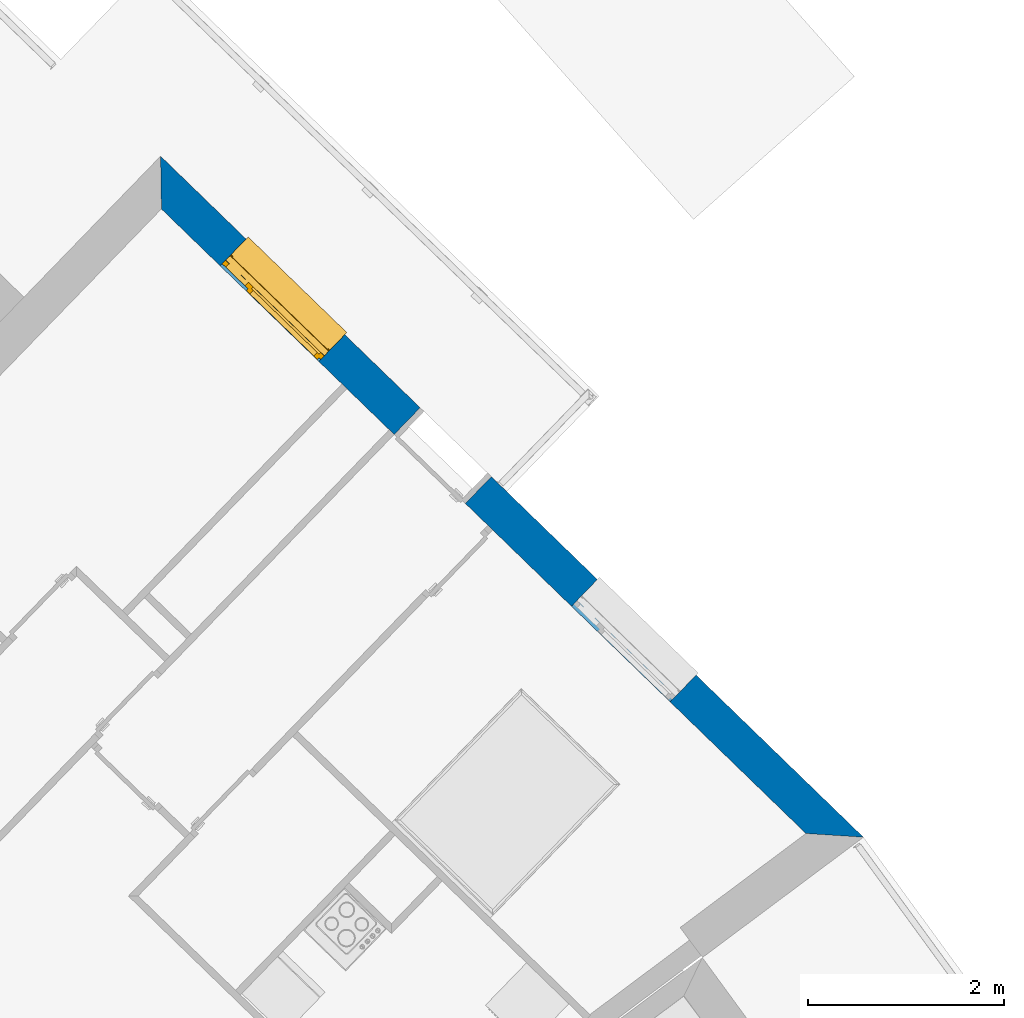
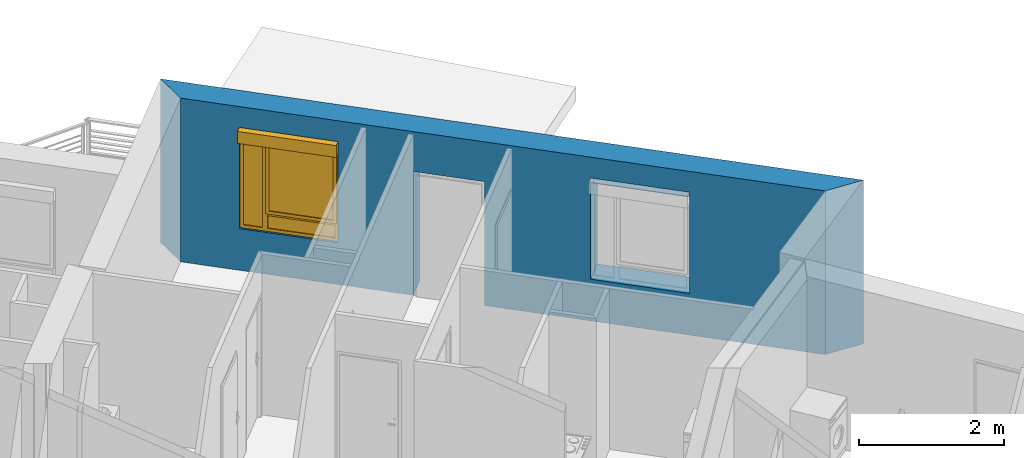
# One storey, part 20 of 121: 1 wall, 1 window, 3 openings.
"""IFC2X3 building model written with IfcOpenShell, lengths in metres."""

import ifcopenshell
import ifcopenshell.guid

model = None  # the IFC model being written
_history = None  # IfcOwnerHistory: only IFC2X3 demands one
_inside = {}  # id of a spatial element -> (the spatial element, [elements in it])
_under = {}  # id of a project, library or spatial element -> (it, [spatial elements below it])
_declared = {}  # id of a project -> (the project, [libraries it declares])
_typed = {}  # id of a type object -> (the type object, [elements of that type])
_made_of = {}  # id of a material, layer set ... -> (it, [elements and type objects made of it])


def new_model(schema):
    """Start an empty IFC model of exactly this schema.

    Asked for "IFC4X3", IfcOpenShell would pick the latest addendum, in which some entities
    have other attributes; the version numbers below select the first issue.
    IFC2X3 requires an IfcOwnerHistory on every rooted entity: one is made here for all.
    """
    global model, _history
    if schema == "IFC4X3":
        model = ifcopenshell.file(schema_version=(4, 3, 0, 0))
    else:
        model = ifcopenshell.file(schema=schema)
    _inside.clear()
    _under.clear()
    _declared.clear()
    _typed.clear()
    _made_of.clear()
    _history = None
    if model.schema == "IFC2X3":
        org = make("IfcOrganization", Name="unknown")
        user = make(
            "IfcPersonAndOrganization",
            ThePerson=make("IfcPerson", FamilyName="unknown"),
            TheOrganization=org,
        )
        app = make(
            "IfcApplication",
            ApplicationDeveloper=org,
            Version="unknown",
            ApplicationFullName="unknown",
            ApplicationIdentifier="unknown",
        )
        _history = make(
            "IfcOwnerHistory",
            OwningUser=user,
            OwningApplication=app,
            ChangeAction="ADDED",
            CreationDate=0,
        )
    return model


def make(cls, **values):
    """One entity of the class cls with the attributes given. An attribute that is None is left unset."""
    return model.create_entity(
        cls, **{name: value for name, value in values.items() if value is not None}
    )


def entity(cls, *values):
    """Any entity or typed value of the class cls, its attributes in the order of the schema. None: left unset."""
    e = model.create_entity(cls)
    for i, value in enumerate(values):
        if value is not None:
            e[i] = value
    return e


def rooted(cls, **values):
    """An entity with a GlobalId (a new one), such as an element, a storey or a relation."""
    return make(cls, GlobalId=ifcopenshell.guid.new(), OwnerHistory=_history, **values)


def si_unit(unit_type, name, prefix=None):
    """IfcSIUnit, for example si_unit("LENGTHUNIT", "METRE", prefix="MILLI")."""
    return make("IfcSIUnit", UnitType=unit_type, Prefix=prefix, Name=name)


def converted_unit(unit_type, name, factor, base, dimensions=None, offset=None):
    """IfcConversionBasedUnit, such as the inch: factor (a typed value) times the base unit."""
    return make(
        "IfcConversionBasedUnit"
        if offset is None
        else "IfcConversionBasedUnitWithOffset",
        ConversionOffset=offset,
        Dimensions=None
        if dimensions is None
        else entity("IfcDimensionalExponents", *dimensions),
        UnitType=unit_type,
        Name=name,
        ConversionFactor=make(
            "IfcMeasureWithUnit", ValueComponent=factor, UnitComponent=base
        ),
    )


def derived_unit(unit_type, elements):
    """IfcDerivedUnit: a product of units, each with its exponent."""
    return make(
        "IfcDerivedUnit",
        Elements=[
            make("IfcDerivedUnitElement", Unit=unit, Exponent=power)
            for unit, power in elements
        ],
        UnitType=unit_type,
    )


def money_unit(currency):
    """IfcMonetaryUnit."""
    return make("IfcMonetaryUnit", Currency=currency)


def assignment(units):
    """IfcUnitAssignment: the units of a project."""
    return None if units is None else make("IfcUnitAssignment", Units=units)


def point(xyz):
    """IfcCartesianPoint."""
    return None if xyz is None else make("IfcCartesianPoint", Coordinates=xyz)


def direction(xyz):
    """IfcDirection."""
    return None if xyz is None else make("IfcDirection", DirectionRatios=xyz)


def frame(location, z_axis=None, x_axis=None):
    """IfcAxis2Placement3D, a coordinate frame: its origin and axes. An axis left out is left unset."""
    return make(
        "IfcAxis2Placement3D",
        Location=point(location),
        Axis=direction(z_axis),
        RefDirection=direction(x_axis),
    )


def frame_2d(location, x_axis=None):
    """IfcAxis2Placement2D, a coordinate frame in the plane: its origin and x axis."""
    return make(
        "IfcAxis2Placement2D", Location=point(location), RefDirection=direction(x_axis)
    )


def origin_with_axes():
    """The frame at (0, 0, 0) with the z axis (0, 0, 1) and the x axis (1, 0, 0) written out."""
    return frame((0.0, 0.0, 0.0), z_axis=(0.0, 0.0, 1.0), x_axis=(1.0, 0.0, 0.0))


def origin_2d_with_axis():
    """The frame at (0, 0) in the plane with the x axis (1, 0) written out."""
    return frame_2d((0.0, 0.0), x_axis=(1.0, 0.0))


def place(relative_to, where):
    """IfcLocalPlacement: puts the frame where relative to a parent placement (None: the world)."""
    return make(
        "IfcLocalPlacement", PlacementRelTo=relative_to, RelativePlacement=where
    )


def context(
    kind, dimensions, precision=None, world=None, true_north=None, identifier=None
):
    """IfcGeometricRepresentationContext, for example the 3D "Model" context."""
    return make(
        "IfcGeometricRepresentationContext",
        ContextIdentifier=identifier,
        ContextType=kind,
        CoordinateSpaceDimension=dimensions,
        Precision=precision,
        WorldCoordinateSystem=world,
        TrueNorth=true_north,
    )


def subcontext(parent, identifier, kind, view, scale=None):
    """IfcGeometricRepresentationSubContext, for example "Body" below "Model"."""
    return make(
        "IfcGeometricRepresentationSubContext",
        ContextIdentifier=identifier,
        ContextType=kind,
        ParentContext=parent,
        TargetScale=scale,
        TargetView=view,
    )


def project(units=None, contexts=None):
    """IfcProject with its units and contexts."""
    return rooted(
        "IfcProject",
        Name="project",
        RepresentationContexts=contexts,
        UnitsInContext=assignment(units),
    )


def spatial(cls, under=None, at=None, **own):
    """A site, building, storey or space (cls), placed at a placement, below another one or the project."""
    s = rooted(cls, ObjectPlacement=at, **own)
    if under is not None:
        _under.setdefault(under.id(), (under, []))[1].append(s)
    return s


def polyline(points):
    """IfcPolyline through the points."""
    return make("IfcPolyline", Points=[point(p) for p in points])


def profile(cls, at=None, kind="AREA", **sizes):
    """A parametric profile (cls). Its sizes go by their IFC names, for example OverallWidth=200.0."""
    return make(cls, ProfileType=kind, Position=at, **sizes)


def rectangle(**sizes):
    """IfcRectangleProfileDef."""
    return profile("IfcRectangleProfileDef", **sizes)


def outline(outer, holes=None, kind="AREA"):
    """IfcArbitraryClosedProfileDef: a profile drawn as a closed curve; with holes, ...WithVoids."""
    if holes is None:
        return make("IfcArbitraryClosedProfileDef", ProfileType=kind, OuterCurve=outer)
    return make(
        "IfcArbitraryProfileDefWithVoids",
        ProfileType=kind,
        OuterCurve=outer,
        InnerCurves=holes,
    )


def extrude(swept, where, along, depth):
    """IfcExtrudedAreaSolid: the profile swept, set in the frame where, extruded along a direction by depth."""
    return make(
        "IfcExtrudedAreaSolid",
        SweptArea=swept,
        Position=where,
        ExtrudedDirection=direction(along),
        Depth=depth,
    )


def faces_of(points, faces, orient=None, outer=None):
    """IfcFace entities. A face is a list of loops; a loop is a list of indices into points, from 0.

    orient and outer hold one flag for each loop. By default every Orientation is true, the
    first loop of a face is its IfcFaceOuterBound and the others are IfcFaceBound.
    """
    made = []
    for i, loops in enumerate(faces):
        bounds = []
        for j, loop in enumerate(loops):
            is_outer = j == 0 if outer is None else outer[i][j]
            bounds.append(
                make(
                    "IfcFaceOuterBound" if is_outer else "IfcFaceBound",
                    Bound=make("IfcPolyLoop", Polygon=[points[k] for k in loop]),
                    Orientation=True if orient is None else orient[i][j],
                )
            )
        made.append(make("IfcFace", Bounds=bounds))
    return made


def open_shell(faces, orient=None, outer=None):
    """The faces of one IfcOpenShell. surface_model builds it on its shared points."""
    return ("IfcOpenShell", faces, orient, outer)


def faceted_brep(points, faces, orient=None, outer=None, voids=None):
    """IfcFacetedBrep: a solid bounded by flat faces; with voids (closed shells), ...WithVoids."""
    shared = [point(p) for p in points]
    hull = make("IfcClosedShell", CfsFaces=faces_of(shared, faces, orient, outer))
    if voids is None:
        return make("IfcFacetedBrep", Outer=hull)
    return make(
        "IfcFacetedBrepWithVoids",
        Outer=hull,
        Voids=[
            make(cls, CfsFaces=faces_of(shared, fs, o, b)) for cls, fs, o, b in voids
        ],
    )


def surface_model(cls, points, shells):
    """IfcFaceBasedSurfaceModel or IfcShellBasedSurfaceModel (cls): surfaces that need not close."""
    shared = [point(p) for p in points]
    made = [make(c, CfsFaces=faces_of(shared, fs, o, b)) for c, fs, o, b in shells]
    if cls == "IfcFaceBasedSurfaceModel":
        return make(cls, FbsmFaces=made)
    return make(cls, SbsmBoundary=made)


def shape(context_of_items, identifier, shape_type, items):
    """IfcShapeRepresentation: the items that make up one representation, for example the "Body"."""
    return make(
        "IfcShapeRepresentation",
        ContextOfItems=context_of_items,
        RepresentationIdentifier=identifier,
        RepresentationType=shape_type,
        Items=items,
    )


def source(mapping_origin, context_of_items, identifier, shape_type, items):
    """IfcRepresentationMap: a shape defined once, which mapped items show again and again."""
    return make(
        "IfcRepresentationMap",
        MappingOrigin=mapping_origin,
        MappedRepresentation=shape(context_of_items, identifier, shape_type, items),
    )


def transform(
    local_origin,
    x_axis=None,
    y_axis=None,
    z_axis=None,
    scale=None,
    scale2=None,
    scale3=None,
    uniform=True,
):
    """IfcCartesianTransformationOperator3D, or its non-uniform kind. x_axis, y_axis, z_axis: its Axis1, 2, 3."""
    if uniform:
        return make(
            "IfcCartesianTransformationOperator3D",
            Axis1=direction(x_axis),
            Axis2=direction(y_axis),
            LocalOrigin=point(local_origin),
            Scale=scale,
            Axis3=direction(z_axis),
        )
    return make(
        "IfcCartesianTransformationOperator3DnonUniform",
        Axis1=direction(x_axis),
        Axis2=direction(y_axis),
        LocalOrigin=point(local_origin),
        Scale=scale,
        Axis3=direction(z_axis),
        Scale2=scale2,
        Scale3=scale3,
    )


def mapped(mapping_source, mapping_target):
    """IfcMappedItem: shows the shape of a source again, moved by a transform."""
    return make(
        "IfcMappedItem", MappingSource=mapping_source, MappingTarget=mapping_target
    )


def material(Name=None, Category=None):
    """IfcMaterial."""
    return make("IfcMaterial", Name=Name, Category=Category)


def layer(
    of_material, thickness, ventilated=None, Name=None, Category=None, Priority=None
):
    """IfcMaterialLayer: one layer of a wall or slab, of a material (None: an air gap)."""
    return make(
        "IfcMaterialLayer",
        Material=of_material,
        LayerThickness=thickness,
        IsVentilated=ventilated,
        Name=Name,
        Category=Category,
        Priority=Priority,
    )


def layer_set(layers, Name=None):
    """IfcMaterialLayerSet."""
    return make("IfcMaterialLayerSet", MaterialLayers=layers, LayerSetName=Name)


def layer_usage(for_layer_set, set_direction, sense, offset, extent=None):
    """IfcMaterialLayerSetUsage: how a layer set lies in its element."""
    return make(
        "IfcMaterialLayerSetUsage",
        ForLayerSet=for_layer_set,
        LayerSetDirection=set_direction,
        DirectionSense=sense,
        OffsetFromReferenceLine=offset,
        ReferenceExtent=extent,
    )


def made_of(thing, what):
    """Note that an element or type object is made of a material, layer set ...; save() writes the relation."""
    if what is not None:
        _made_of.setdefault(what.id(), (what, []))[1].append(thing)
    return thing


def type_object(cls, material=None, **own):
    """A type object (cls), such as IfcWallType, which elements share."""
    return made_of(rooted(cls, **own), material)


def element(
    cls,
    number,
    at=None,
    inside=None,
    cuts=None,
    type_object=None,
    material=None,
    context=None,
    identifier="Body",
    shape_type=None,
    held_by="IfcProductDefinitionShape",
    body=None,
    shapes=None,
    **own,
):
    """One element of the class cls, such as IfcWall. Its Tag is "e" and its number.

    at: its placement. inside: the storey or other place that contains it. cuts: it is an
    opening in that element (IfcRelVoidsElement). A single representation is given by context,
    identifier, shape_type and body (its items); several are given by shapes. held_by: the class
    of the entity that holds the representations. save() writes the other relations.
    """
    e = rooted(cls, Tag="e%d" % number, ObjectPlacement=at, **own)
    if body is not None:
        shapes = [shape(context, identifier, shape_type, body)]
    if shapes is not None:
        e.Representation = make(held_by, Representations=shapes)
    if inside is not None:
        _inside.setdefault(inside.id(), (inside, []))[1].append(e)
    if cuts is not None:
        rooted(
            "IfcRelVoidsElement", RelatingBuildingElement=cuts, RelatedOpeningElement=e
        )
    if type_object is not None:
        _typed.setdefault(type_object.id(), (type_object, []))[1].append(e)
    return made_of(e, material)


def fill(opening, filler):
    """IfcRelFillsElement: the door or window that sits in an opening."""
    return rooted(
        "IfcRelFillsElement",
        RelatingOpeningElement=opening,
        RelatedBuildingElement=filler,
    )


def aggregate(whole, parts):
    """IfcRelAggregates: a whole, such as a stair, and the parts it consists of."""
    return rooted("IfcRelAggregates", RelatingObject=whole, RelatedObjects=parts)


def save(model, path):
    """Write the relations noted so far, then the file.

    IfcRelAggregates (storeys below a building ...), IfcRelContainedInSpatialStructure (elements
    in a storey), IfcRelDefinesByType, IfcRelAssociatesMaterial and IfcRelDeclares: one each for
    every whole, place, type object, material and project.
    """
    for whole, parts in _under.values():
        aggregate(whole, parts)
    for where, things in _inside.values():
        rooted(
            "IfcRelContainedInSpatialStructure",
            RelatedElements=things,
            RelatingStructure=where,
        )
    for kind, things in _typed.values():
        rooted("IfcRelDefinesByType", RelatedObjects=things, RelatingType=kind)
    for what, things in _made_of.values():
        rooted("IfcRelAssociatesMaterial", RelatedObjects=things, RelatingMaterial=what)
    for by, libraries in _declared.values():
        rooted("IfcRelDeclares", RelatingContext=by, RelatedDefinitions=libraries)
    model.write(path)


model = new_model("IFC2X3")

# Units and contexts
model_context = context("Model", 3, precision=1e-05, world=origin_with_axes(), true_north=direction((0.0, 1.0)))
body_context = subcontext(model_context, "Body", "Model", "MODEL_VIEW")
ifc_project = project(units=[si_unit("LENGTHUNIT", "METRE"), si_unit("AREAUNIT", "SQUARE_METRE"), si_unit("VOLUMEUNIT", "CUBIC_METRE"), converted_unit("PLANEANGLEUNIT", "DEGREE", entity("IfcPlaneAngleMeasure", 0.0174532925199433), si_unit("PLANEANGLEUNIT", "RADIAN"), dimensions=[0, 0, 0, 0, 0, 0, 0]), money_unit("CHF"), converted_unit("TIMEUNIT", "Year", entity("IfcTimeMeasure", 31557600.0), si_unit("TIMEUNIT", "SECOND"), dimensions=[0, 0, 1, 0, 0, 0, 0]), si_unit("MASSUNIT", "GRAM", prefix="KILO"), si_unit("THERMODYNAMICTEMPERATUREUNIT", "DEGREE_CELSIUS"), si_unit("LUMINOUSINTENSITYUNIT", "LUMEN"), si_unit("ENERGYUNIT", "JOULE", prefix="MEGA"), derived_unit("THERMALCONDUCTANCEUNIT", [(si_unit("POWERUNIT", "WATT"), 1), (si_unit("LENGTHUNIT", "METRE"), -1), (si_unit("THERMODYNAMICTEMPERATUREUNIT", "KELVIN"), -1)]), derived_unit("SPECIFICHEATCAPACITYUNIT", [(si_unit("ENERGYUNIT", "JOULE"), 1), (si_unit("MASSUNIT", "GRAM", prefix="KILO"), -1), (si_unit("THERMODYNAMICTEMPERATUREUNIT", "KELVIN"), -1)]), derived_unit("MASSDENSITYUNIT", [(si_unit("MASSUNIT", "GRAM", prefix="KILO"), 1), (si_unit("VOLUMEUNIT", "CUBIC_METRE"), -1)])], contexts=[model_context])

# Site, building, storey
site_placement = place(None, origin_with_axes())
site = spatial("IfcSite", under=ifc_project, at=site_placement, Name="Site", CompositionType="ELEMENT")
building_placement = place(site_placement, origin_with_axes())
building = spatial("IfcBuilding", under=site, at=building_placement, Name="Bâtiment", CompositionType="ELEMENT")
storey_placement = place(building_placement, frame((0.0, 0.0, 2.75), z_axis=(0.0, 0.0, 1.0), x_axis=(1.0, 0.0, 0.0)))
storey = spatial("IfcBuildingStorey", under=building, at=storey_placement, Name="Etage 1", CompositionType="ELEMENT", Elevation=2.75)

# Wall, openings, window
ifc_material_1 = material(Name="Parpaing 312445824")
ifc_layer_1 = layer(ifc_material_1, 0.22, ventilated="UNKNOWN")
ifc_material_2 = material(Name="Isolant styromousse 301821074")
ifc_layer_2 = layer(ifc_material_2, 0.16, ventilated="UNKNOWN")
ifc_layer_set = layer_set([ifc_layer_1, ifc_layer_2], Name="isol int 22+16 0836643197")
ifc_layer_usage = layer_usage(ifc_layer_set, "AXIS2", "NEGATIVE", 0.0)
wall_type = type_object("IfcWallType", Name="isol int 22+16 0836643197 380", PredefinedType="NOTDEFINED")
wall_placement = place(storey_placement, frame((9531.989867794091, -1061.560379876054, 57.7), z_axis=(0.0, 0.0, 1.0), x_axis=(0.7181763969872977, -0.6958610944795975, 0.0)))
wall = element("IfcWallStandardCase", 1, at=wall_placement, inside=storey, type_object=wall_type, material=ifc_layer_usage, Name="Mur-116", context=body_context, shape_type="SweptSolid", body=[
    extrude(outline(polyline([(0.3800000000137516, -0.3799999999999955), (9.524551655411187, -0.3800000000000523), (9.970619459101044, 0.0), (0.0, 0.0), (0.3800000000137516, -0.3799999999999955)])), origin_with_axes(), (0.0, 0.0, 1.0), 2.75),
])
opening_1_placement = place(wall_placement, frame((1.912836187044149, 0.0, 0.7000000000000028), z_axis=(0.0, 0.0, 1.0), x_axis=(1.0, 0.0, 0.0)))
opening_1 = element("IfcOpeningElement", 2, at=opening_1_placement, cuts=wall, Name="Fen-045", context=body_context, shape_type="Brep", body=[
    faceted_brep([(-0.7000000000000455, -0.2200000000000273, 1.5), (0.6999999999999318, -0.2200000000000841, 1.5), (0.6999999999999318, 4.983827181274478, 1.5), (-0.7000000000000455, 4.983827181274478, 1.5), (-0.7000000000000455, -0.2200000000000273, 1.700000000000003), (0.6999999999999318, -0.2200000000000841, 1.700000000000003), (0.6999999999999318, -0.3000000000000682, 1.5), (0.6999999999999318, -0.3000000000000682, 0.0), (0.6999999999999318, 4.983827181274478, 0.0), (-0.7000000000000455, 4.983827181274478, 0.0), (-0.7000000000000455, -0.3000000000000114, 1.5), (-0.7000000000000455, -0.3000000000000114, 0.0), (-0.7000000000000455, -0.4799999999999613, 1.5), (-0.7000000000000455, -0.4799999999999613, 1.700000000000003), (0.6999999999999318, -0.4800000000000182, 1.700000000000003), (0.6999999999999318, -0.4800000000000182, 1.5), (0.6999999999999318, -5.36382718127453, 1.5), (0.6999999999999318, -5.36382718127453, 0.0), (-0.7000000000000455, -5.363827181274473, 0.0), (-0.7000000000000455, -5.363827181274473, 1.5)], [[[0, 1, 2, 3]], [[1, 0, 4, 5]], [[1, 6, 7, 8, 2]], [[2, 8, 9, 3]], [[10, 0, 3, 9, 11]], [[0, 10, 12, 13, 4]], [[4, 13, 14, 5]], [[6, 1, 5, 14, 15]], [[6, 15, 16, 17, 7]], [[7, 11, 9, 8]], [[12, 10, 11, 18, 19]], [[12, 15, 14, 13]], [[15, 12, 19, 16]], [[19, 18, 17, 16]], [[11, 7, 17, 18]]]),
])
opening_2_placement = place(wall_placement, frame((4.187148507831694, 0.0, 0.0), z_axis=(0.0, 0.0, 1.0), x_axis=(1.0, 0.0, 0.0)))
element("IfcOpeningElement", 3, at=opening_2_placement, cuts=wall, Name="Por-297", context=body_context, shape_type="SweptSolid", body=[
    extrude(rectangle(XDim=1.01000001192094, YDim=2.079999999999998, at=origin_2d_with_axis()), frame((-5.960487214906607e-09, 0.3799999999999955, 1.039999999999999), z_axis=(0.0, -1.0, 0.0), x_axis=(-1.0, 0.0, 0.0)), (0.0, 0.0, 1.0), 0.76),
])
opening_3_placement = place(wall_placement, frame((6.896864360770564, 0.0, 0.7000000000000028), z_axis=(0.0, 0.0, 1.0), x_axis=(1.0, 0.0, 0.0)))
element("IfcOpeningElement", 4, at=opening_3_placement, cuts=wall, Name="Fen-045", context=body_context, shape_type="Brep", body=[
    faceted_brep([(-0.7000000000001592, -0.2200000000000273, 1.5), (0.6999999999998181, -0.2200000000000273, 1.5), (0.6999999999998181, 4.983827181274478, 1.5), (-0.7000000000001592, 4.983827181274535, 1.5), (-0.7000000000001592, -0.2200000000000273, 1.700000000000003), (0.6999999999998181, -0.2200000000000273, 1.700000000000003), (0.6999999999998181, -0.3000000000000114, 1.5), (0.6999999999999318, -0.3000000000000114, 0.0), (0.6999999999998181, 4.983827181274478, 0.0), (-0.7000000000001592, 4.983827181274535, 0.0), (-0.7000000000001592, -0.2999999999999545, 1.5), (-0.7000000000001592, -0.3000000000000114, 0.0), (-0.7000000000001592, -0.4799999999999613, 1.5), (-0.7000000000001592, -0.4799999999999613, 1.700000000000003), (0.6999999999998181, -0.4799999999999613, 1.700000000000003), (0.6999999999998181, -0.4799999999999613, 1.5), (0.6999999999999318, -5.36382718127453, 1.5), (0.6999999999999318, -5.36382718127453, 0.0), (-0.7000000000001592, -5.363827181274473, 0.0), (-0.7000000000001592, -5.363827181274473, 1.5)], [[[0, 1, 2, 3]], [[1, 0, 4, 5]], [[1, 6, 7, 8, 2]], [[2, 8, 9, 3]], [[10, 0, 3, 9, 11]], [[0, 10, 12, 13, 4]], [[4, 13, 14, 5]], [[6, 1, 5, 14, 15]], [[6, 15, 16, 17, 7]], [[7, 11, 9, 8]], [[12, 10, 11, 18, 19]], [[12, 15, 14, 13]], [[15, 12, 19, 16]], [[19, 18, 17, 16]], [[11, 7, 17, 18]]]),
])
window_style = type_object("IfcWindowStyle", Name="Fenêtre variable 27", ConstructionType="NOTDEFINED", OperationType="TRIPLE_PANEL_RIGHT", ParameterTakesPrecedence=False, Sizeable=False)
shared_shape = source(origin_with_axes(), body_context, "Body", "SurfaceModel", [
    surface_model("IfcShellBasedSurfaceModel", [(-0.7, -0.05100000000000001, 0.05), (-0.7, -0.05100000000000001, 0.04), (0.7, -0.05100000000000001, 0.04000000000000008), (0.7, -0.05100000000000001, 0.05000000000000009), (-0.7, -0.3799999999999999, 0.02899999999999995), (0.7, -0.3799999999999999, 0.02900000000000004), (-0.7, -0.3799999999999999, 0.008999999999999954), (0.7, -0.3799999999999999, 0.00900000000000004), (-0.7, -0.3699999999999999, 0.01899999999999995), (0.7, -0.3699999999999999, 0.01900000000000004)], [open_shell([[[0, 1, 2, 3]], [[1, 4, 5, 2]], [[4, 6, 7, 5]], [[6, 8, 9, 7]]])]),
    faceted_brep([(-0.7, -0.13, 1.7), (-0.697, -0.13, 1.7), (-0.697, 0.13, 1.7), (-0.7, 0.13, 1.7), (-0.7, -0.13, 1.5), (-0.697, -0.13, 1.5), (-0.697, 0.13, 1.5), (-0.7, 0.13, 1.5)], [[[0, 1, 2, 3]], [[4, 5, 1, 0]], [[1, 5, 6, 2]], [[3, 2, 6, 7]], [[0, 3, 7, 4]], [[7, 6, 5, 4]]]),
    faceted_brep([(0.6970000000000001, -0.1299999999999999, 1.7), (0.7000000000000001, -0.1299999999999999, 1.7), (0.7000000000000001, 0.1300000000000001, 1.7), (0.6970000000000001, 0.1300000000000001, 1.7), (0.6970000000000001, -0.1299999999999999, 1.5), (0.7000000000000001, -0.1299999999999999, 1.5), (0.7000000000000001, 0.1300000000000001, 1.5), (0.6970000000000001, 0.1300000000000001, 1.5)], [[[0, 1, 2, 3]], [[4, 5, 1, 0]], [[1, 5, 6, 2]], [[3, 2, 6, 7]], [[0, 3, 7, 4]], [[7, 6, 5, 4]]]),
    faceted_brep([(-0.697, -0.13, 1.5), (0.697, -0.1299999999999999, 1.5), (0.697, -0.1299999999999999, 1.7), (-0.697, -0.13, 1.7), (-0.697, -0.127, 1.5), (0.697, -0.1269999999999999, 1.5), (0.697, -0.1269999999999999, 1.697), (0.697, 0.1270000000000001, 1.697), (0.697, 0.1270000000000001, 1.503), (0.697, -0.1079999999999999, 1.503), (0.697, -0.1079999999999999, 1.5), (0.697, 0.1300000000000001, 1.5), (0.697, 0.1300000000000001, 1.7), (-0.697, 0.13, 1.7), (-0.697, 0.13, 1.5), (-0.697, -0.108, 1.5), (-0.697, -0.108, 1.503), (-0.697, 0.127, 1.503), (-0.697, 0.127, 1.697), (-0.697, -0.127, 1.697)], [[[0, 1, 2, 3]], [[4, 5, 1, 0]], [[1, 5, 6, 7, 8, 9, 10, 11, 12, 2]], [[3, 2, 12, 13]], [[0, 3, 13, 14, 15, 16, 17, 18, 19, 4]], [[19, 6, 5, 4]], [[18, 7, 6, 19]], [[17, 8, 7, 18]], [[16, 9, 8, 17]], [[15, 10, 9, 16]], [[14, 11, 10, 15]], [[13, 12, 11, 14]]]),
    faceted_brep([(-0.694, -0.08075423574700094, 1.585760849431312), (-0.694, -0.08200000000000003, 1.6), (-0.694, -0.0807542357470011, 1.614239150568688), (-0.694, -0.07705479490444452, 1.628045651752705), (-0.694, -0.07101408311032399, 1.641), (-0.694, -0.06281564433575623, 1.652708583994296), (-0.694, -0.05270858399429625, 1.662815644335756), (-0.694, -0.04100000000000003, 1.671014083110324), (-0.694, -0.02804565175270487, 1.677054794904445), (-0.694, -0.01423915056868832, 1.680754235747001), (-0.694, 0.0, 1.682), (-0.694, 0.01423915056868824, 1.680754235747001), (-0.694, 0.02804565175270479, 1.677054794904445), (-0.694, 0.04099999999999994, 1.671014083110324), (-0.694, 0.05270858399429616, 1.662815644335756), (-0.694, 0.06281564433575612, 1.652708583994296), (-0.694, 0.07101408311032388, 1.641), (-0.694, 0.0770547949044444, 1.628045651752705), (-0.694, 0.08075423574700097, 1.614239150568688), (-0.694, 0.0819999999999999, 1.6), (-0.694, 0.08075423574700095, 1.585760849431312), (-0.694, 0.07705479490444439, 1.571954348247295), (-0.694, 0.07101408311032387, 1.559), (-0.694, 0.06281564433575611, 1.547291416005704), (-0.694, 0.05270858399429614, 1.537184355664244), (-0.694, 0.04099999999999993, 1.528985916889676), (-0.694, 0.02804565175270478, 1.522945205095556), (-0.694, 0.01423915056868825, 1.519245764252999), (-0.694, 0.0, 1.518), (-0.694, -0.01423915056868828, 1.519245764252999), (-0.694, -0.02804565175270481, 1.522945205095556), (-0.694, -0.04099999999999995, 1.528985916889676), (-0.694, -0.05270858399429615, 1.537184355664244), (-0.694, -0.06281564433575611, 1.547291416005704), (-0.694, -0.07101408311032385, 1.559), (-0.694, -0.07705479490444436, 1.571954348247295), (0.694, -0.08075423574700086, 1.585760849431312), (0.694, -0.08199999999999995, 1.6), (0.694, -0.08075423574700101, 1.614239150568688), (0.694, -0.07705479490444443, 1.628045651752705), (0.694, -0.07101408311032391, 1.641), (0.694, -0.06281564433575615, 1.652708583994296), (0.694, -0.05270858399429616, 1.662815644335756), (0.694, -0.04099999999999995, 1.671014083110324), (0.694, -0.02804565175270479, 1.677054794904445), (0.694, -0.01423915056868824, 1.680754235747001), (0.694, 0.0, 1.682), (0.694, 0.01423915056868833, 1.680754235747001), (0.694, 0.02804565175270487, 1.677054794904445), (0.694, 0.04100000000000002, 1.671014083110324), (0.694, 0.05270858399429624, 1.662815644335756), (0.694, 0.0628156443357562, 1.652708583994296), (0.694, 0.07101408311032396, 1.641), (0.694, 0.07705479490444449, 1.628045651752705), (0.694, 0.08075423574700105, 1.614239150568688), (0.694, 0.08199999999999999, 1.6), (0.694, 0.08075423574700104, 1.585760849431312), (0.694, 0.07705479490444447, 1.571954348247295), (0.694, 0.07101408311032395, 1.559), (0.694, 0.06281564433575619, 1.547291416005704), (0.694, 0.05270858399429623, 1.537184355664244), (0.694, 0.04100000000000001, 1.528985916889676), (0.694, 0.02804565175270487, 1.522945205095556), (0.694, 0.01423915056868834, 1.519245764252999), (0.694, 0.0, 1.518), (0.694, -0.0142391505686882, 1.519245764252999), (0.694, -0.02804565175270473, 1.522945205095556), (0.694, -0.04099999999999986, 1.528985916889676), (0.694, -0.05270858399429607, 1.537184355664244), (0.694, -0.06281564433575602, 1.547291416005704), (0.694, -0.07101408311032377, 1.559), (0.694, -0.07705479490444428, 1.571954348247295)], [[[0, 1, 2, 3, 4, 5, 6, 7, 8, 9, 10, 11, 12, 13, 14, 15, 16, 17, 18, 19, 20, 21, 22, 23, 24, 25, 26, 27, 28, 29, 30, 31, 32, 33, 34, 35]], [[0, 36, 37, 1]], [[1, 37, 38, 2]], [[2, 38, 39, 3]], [[3, 39, 40, 4]], [[4, 40, 41, 5]], [[5, 41, 42, 6]], [[6, 42, 43, 7]], [[7, 43, 44, 8]], [[8, 44, 45, 9]], [[9, 45, 46, 10]], [[10, 46, 47, 11]], [[11, 47, 48, 12]], [[12, 48, 49, 13]], [[13, 49, 50, 14]], [[14, 50, 51, 15]], [[15, 51, 52, 16]], [[16, 52, 53, 17]], [[17, 53, 54, 18]], [[18, 54, 55, 19]], [[19, 55, 56, 20]], [[20, 56, 57, 21]], [[21, 57, 58, 22]], [[22, 58, 59, 23]], [[23, 59, 60, 24]], [[24, 60, 61, 25]], [[25, 61, 62, 26]], [[26, 62, 63, 27]], [[27, 63, 64, 28]], [[28, 64, 65, 29]], [[29, 65, 66, 30]], [[30, 66, 67, 31]], [[31, 67, 68, 32]], [[32, 68, 69, 33]], [[33, 69, 70, 34]], [[34, 70, 71, 35]], [[35, 71, 36, 0]], [[36, 71, 70, 69, 68, 67, 66, 65, 64, 63, 62, 61, 60, 59, 58, 57, 56, 55, 54, 53, 52, 51, 50, 49, 48, 47, 46, 45, 44, 43, 42, 41, 40, 39, 38, 37]]]),
    faceted_brep([(0.7, -0.105, 0.03), (0.7, -0.1049999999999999, 1.5), (0.7, -0.1299999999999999, 1.5), (0.7, -0.13, 0.03), (0.6749999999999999, -0.105, 0.03), (0.6749999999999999, -0.1049999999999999, 1.5), (0.6749999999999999, -0.1079999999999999, 1.5), (0.697, -0.1079999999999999, 1.5), (0.697, -0.1269999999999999, 1.5), (0.6749999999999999, -0.1269999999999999, 1.5), (0.6749999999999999, -0.1299999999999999, 1.5), (0.6749999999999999, -0.13, 0.03), (0.6749999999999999, -0.127, 0.03), (0.697, -0.127, 0.03), (0.697, -0.108, 0.03), (0.6749999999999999, -0.108, 0.03)], [[[0, 1, 2, 3]], [[4, 5, 1, 0]], [[1, 5, 6, 7, 8, 9, 10, 2]], [[3, 2, 10, 11]], [[0, 3, 11, 12, 13, 14, 15, 4]], [[15, 6, 5, 4]], [[14, 7, 6, 15]], [[13, 8, 7, 14]], [[12, 9, 8, 13]], [[11, 10, 9, 12]]]),
    faceted_brep([(-0.7, -0.105, 0.03), (-0.7, -0.13, 0.03), (-0.7, -0.1299999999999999, 1.5), (-0.7, -0.1049999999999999, 1.5), (-0.6749999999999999, -0.105, 0.03), (-0.6749999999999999, -0.108, 0.03), (-0.697, -0.108, 0.03), (-0.697, -0.127, 0.03), (-0.6749999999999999, -0.127, 0.03), (-0.6749999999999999, -0.13, 0.03), (-0.6749999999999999, -0.1299999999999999, 1.5), (-0.6749999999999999, -0.1269999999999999, 1.5), (-0.697, -0.1269999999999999, 1.5), (-0.697, -0.1079999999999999, 1.5), (-0.6749999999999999, -0.1079999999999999, 1.5), (-0.6749999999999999, -0.1049999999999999, 1.5)], [[[0, 1, 2, 3]], [[0, 4, 5, 6, 7, 8, 9, 1]], [[1, 9, 10, 2]], [[3, 2, 10, 11, 12, 13, 14, 15]], [[4, 0, 3, 15]], [[5, 4, 15, 14]], [[6, 5, 14, 13]], [[7, 6, 13, 12]], [[8, 7, 12, 11]], [[9, 8, 11, 10]]]),
    surface_model("IfcShellBasedSurfaceModel", [(-0.697, -0.115, 1.6), (0.697, -0.1149999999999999, 1.6), (0.697, -0.1199999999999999, 1.6), (-0.697, -0.12, 1.6), (-0.697, -0.115, 1.6), (-0.697, -0.12, 1.6), (0.697, -0.12, 1.6), (0.697, -0.1149999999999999, 1.6)], [open_shell([[[0, 1, 2, 3]], [[4, 5, 6, 7]]])]),
    faceted_brep([(-0.697, -0.115, 1.6), (0.697, -0.1149999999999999, 1.6), (0.697, -0.1166666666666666, 1.583333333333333), (-0.697, -0.1166666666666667, 1.583333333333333), (-0.697, -0.12, 1.6), (0.697, -0.1199999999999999, 1.6), (0.697, -0.1216666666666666, 1.583333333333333), (0.697, -0.1216666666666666, 1.566666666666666), (0.697, -0.1199999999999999, 1.55), (0.697, -0.1149999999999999, 1.55), (0.697, -0.1166666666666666, 1.566666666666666), (-0.697, -0.1166666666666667, 1.566666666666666), (-0.697, -0.115, 1.55), (-0.697, -0.12, 1.55), (-0.697, -0.1216666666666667, 1.566666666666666), (-0.697, -0.1216666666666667, 1.583333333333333)], [[[0, 1, 2, 3]], [[4, 5, 1, 0]], [[1, 5, 6, 7, 8, 9, 10, 2]], [[3, 2, 10, 11]], [[0, 3, 11, 12, 13, 14, 15, 4]], [[15, 6, 5, 4]], [[14, 7, 6, 15]], [[13, 8, 7, 14]], [[12, 9, 8, 13]], [[11, 10, 9, 12]]]),
    faceted_brep([(-0.697, -0.115, 1.55), (0.697, -0.1149999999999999, 1.55), (0.697, -0.1166666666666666, 1.533333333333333), (-0.697, -0.1166666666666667, 1.533333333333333), (-0.697, -0.12, 1.55), (0.697, -0.1199999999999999, 1.55), (0.697, -0.1216666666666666, 1.533333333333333), (0.697, -0.1216666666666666, 1.516666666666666), (0.697, -0.1199999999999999, 1.5), (0.697, -0.1149999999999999, 1.5), (0.697, -0.1166666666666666, 1.516666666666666), (-0.697, -0.1166666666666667, 1.516666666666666), (-0.697, -0.115, 1.5), (-0.697, -0.12, 1.5), (-0.697, -0.1216666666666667, 1.516666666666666), (-0.697, -0.1216666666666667, 1.533333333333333)], [[[0, 1, 2, 3]], [[4, 5, 1, 0]], [[1, 5, 6, 7, 8, 9, 10, 2]], [[3, 2, 10, 11]], [[0, 3, 11, 12, 13, 14, 15, 4]], [[15, 6, 5, 4]], [[14, 7, 6, 15]], [[13, 8, 7, 14]], [[12, 9, 8, 13]], [[11, 10, 9, 12]]]),
    faceted_brep([(-0.6749999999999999, 0.0, 1.45), (-0.7, 0.0, 1.45), (-0.7, -0.05000000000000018, 1.45), (-0.6499999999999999, -0.05000000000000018, 1.45), (-0.6499999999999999, -0.02500000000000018, 1.45), (-0.6749999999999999, -0.02500000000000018, 1.45), (-0.6749999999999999, 0.0, 0.3099999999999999), (-0.6499999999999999, 0.0, 0.3099999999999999), (-0.6499999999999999, 0.0, 0.265), (-0.6499999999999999, 0.0, 0.05000000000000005), (-0.7, 0.0, 0.05000000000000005), (-0.7, -0.05000000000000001, 0.05000000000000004), (-0.6499999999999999, -0.05000000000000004, 0.335), (-0.6499999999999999, -0.05000000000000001, 0.05000000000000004), (-0.6499999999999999, -0.05000000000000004, 0.265), (-0.6499999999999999, -0.02500000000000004, 0.335), (-0.6499999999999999, -0.02500000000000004, 0.3099999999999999), (-0.6749999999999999, -0.02500000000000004, 0.3099999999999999)], [[[0, 1, 2, 3, 4, 5]], [[6, 7, 8, 9, 10, 1, 0]], [[1, 10, 11, 2]], [[12, 3, 2, 11, 13, 14]], [[4, 3, 12, 15]], [[15, 16, 17, 5, 4]], [[5, 17, 6, 0]], [[6, 17, 16, 7]], [[16, 15, 12, 14, 8, 7]], [[9, 8, 14, 13]], [[10, 9, 13, 11]]]),
    faceted_brep([(0.3068894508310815, -0.02500000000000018, 1.45), (0.3068894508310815, -0.05000000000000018, 1.45), (0.3768894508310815, -0.05000000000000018, 1.45), (0.3768894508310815, 0.0, 1.45), (0.3318894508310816, 0.0, 1.45), (0.3318894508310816, -0.02500000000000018, 1.45), (0.3068894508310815, -0.02500000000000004, 0.335), (0.3068894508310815, -0.05000000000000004, 0.335), (0.3068894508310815, -0.05000000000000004, 0.265), (0.3068894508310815, -0.05000000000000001, 0.05000000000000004), (0.3768894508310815, -0.05000000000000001, 0.05000000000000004), (0.3768894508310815, 0.0, 0.05000000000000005), (0.3318894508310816, 0.0, 0.3099999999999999), (0.3068894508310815, 0.0, 0.05000000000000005), (0.3068894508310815, 0.0, 0.265), (0.3068894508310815, 0.0, 0.3099999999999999), (0.3318894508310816, -0.02500000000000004, 0.3099999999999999), (0.3068894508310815, -0.02500000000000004, 0.3099999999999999)], [[[0, 1, 2, 3, 4, 5]], [[6, 7, 1, 0]], [[8, 9, 10, 2, 1, 7]], [[11, 3, 2, 10]], [[12, 4, 3, 11, 13, 14, 15]], [[12, 16, 5, 4]], [[5, 16, 17, 6, 0]], [[17, 15, 14, 8, 7, 6]], [[14, 13, 9, 8]], [[13, 11, 10, 9]], [[15, 17, 16, 12]]]),
    faceted_brep([(-0.6499999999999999, -0.02500000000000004, 0.335), (-0.6499999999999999, -0.05000000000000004, 0.335), (0.3068894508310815, -0.05000000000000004, 0.335), (0.3068894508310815, -0.02500000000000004, 0.335), (-0.6499999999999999, -0.02500000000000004, 0.3099999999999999), (-0.6499999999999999, 0.0, 0.3099999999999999), (-0.6499999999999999, 0.0, 0.265), (-0.6499999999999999, -0.05000000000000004, 0.265), (0.3068894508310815, -0.05000000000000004, 0.265), (0.3068894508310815, -0.02500000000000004, 0.3099999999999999), (0.3068894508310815, 0.0, 0.265), (0.3068894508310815, 0.0, 0.3099999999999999)], [[[0, 1, 2, 3]], [[4, 5, 6, 7, 1, 0]], [[2, 1, 7, 8]], [[9, 3, 2, 8, 10, 11]], [[9, 4, 0, 3]], [[5, 4, 9, 11]], [[11, 10, 6, 5]], [[6, 10, 8, 7]]]),
    faceted_brep([(-0.6749999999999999, 0.0, 1.45), (-0.7, 0.0, 1.45), (-0.7, 0.0, 1.5), (0.7, 0.0, 1.5), (0.7, 0.0, 1.45), (0.6499999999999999, 0.0, 1.45), (0.3768894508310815, 0.0, 1.45), (0.3318894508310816, 0.0, 1.45), (0.3318894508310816, 0.0, 1.475), (-0.6749999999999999, 0.0, 1.475), (-0.6749999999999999, -0.02500000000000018, 1.45), (-0.6499999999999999, -0.02500000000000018, 1.45), (-0.6499999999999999, -0.05000000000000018, 1.45), (-0.7, -0.05000000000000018, 1.45), (-0.7, -0.05000000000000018, 1.5), (0.7, -0.05000000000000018, 1.5), (0.7, -0.05000000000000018, 1.45), (0.6499999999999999, -0.05000000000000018, 1.45), (0.3768894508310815, -0.05000000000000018, 1.45), (0.3318894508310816, -0.02500000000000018, 1.45), (0.3068894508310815, -0.05000000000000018, 1.45), (0.3068894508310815, -0.02500000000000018, 1.45), (0.3318894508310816, -0.02500000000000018, 1.475), (-0.6749999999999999, -0.02500000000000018, 1.475)], [[[0, 1, 2, 3, 4, 5, 6, 7, 8, 9]], [[10, 11, 12, 13, 1, 0]], [[2, 1, 13, 14]], [[3, 2, 14, 15]], [[4, 3, 15, 16]], [[5, 4, 16, 17]], [[6, 5, 17, 18]], [[19, 7, 6, 18, 20, 21]], [[7, 19, 22, 8]], [[8, 22, 23, 9]], [[9, 23, 10, 0]], [[21, 11, 10, 23, 22, 19]], [[21, 20, 12, 11]], [[18, 17, 16, 15, 14, 13, 12, 20]]]),
    faceted_brep([(0.6499999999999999, -0.05000000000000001, 0.05), (0.6499999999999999, 0.0, 0.05000000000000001), (0.7, 0.0, 0.05000000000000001), (0.7, -0.05000000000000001, 0.05), (0.6499999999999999, -0.05000000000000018, 1.45), (0.6499999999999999, 0.0, 1.45), (0.7, 0.0, 1.45), (0.7, -0.05000000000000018, 1.45)], [[[0, 1, 2, 3]], [[4, 5, 1, 0]], [[1, 5, 6, 2]], [[3, 2, 6, 7]], [[0, 3, 7, 4]], [[7, 6, 5, 4]]]),
    faceted_brep([(-0.6499999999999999, -0.05000000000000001, 0.05), (-0.6499999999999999, 0.0, 0.05000000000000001), (-0.7, 0.0, 0.05000000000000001), (-0.7, -0.05000000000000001, 0.05), (0.3068894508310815, -0.05000000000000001, 0.05), (0.3068894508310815, 0.0, 0.05000000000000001), (0.3768894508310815, 0.0, 0.05000000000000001), (0.6499999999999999, 0.0, 0.05000000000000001), (0.7, 0.0, 0.05000000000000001), (0.7, 0.0, 0.0), (-0.7, 0.0, 0.0), (-0.7, -0.05, 0.0), (0.7, -0.05, 0.0), (0.7, -0.05000000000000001, 0.05), (0.6499999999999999, -0.05000000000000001, 0.05), (0.3768894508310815, -0.05000000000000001, 0.05)], [[[0, 1, 2, 3]], [[4, 5, 1, 0]], [[1, 5, 6, 7, 8, 9, 10, 2]], [[3, 2, 10, 11]], [[0, 3, 11, 12, 13, 14, 15, 4]], [[15, 6, 5, 4]], [[14, 7, 6, 15]], [[13, 8, 7, 14]], [[12, 9, 8, 13]], [[11, 10, 9, 12]]]),
    faceted_brep([(-0.625, -0.02500000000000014, 1.425), (-0.625, 0.02499999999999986, 1.425), (-0.6749999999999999, 0.02499999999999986, 1.425), (-0.6749999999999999, -0.02500000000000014, 1.425), (-0.625, -0.02500000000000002, 0.3599999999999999), (-0.625, 0.02499999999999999, 0.3599999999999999), (-0.6749999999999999, 0.02499999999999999, 0.3599999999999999), (-0.6749999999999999, -0.02500000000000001, 0.3599999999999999)], [[[0, 1, 2, 3]], [[4, 5, 1, 0]], [[1, 5, 6, 2]], [[3, 2, 6, 7]], [[0, 3, 7, 4]], [[7, 6, 5, 4]]]),
    faceted_brep([(0.2818894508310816, -0.02500000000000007, 0.3599999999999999), (0.2818894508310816, 0.02499999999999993, 0.3599999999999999), (0.3318894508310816, 0.02499999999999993, 0.3599999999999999), (0.3318894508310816, -0.02500000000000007, 0.3599999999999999), (0.2818894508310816, -0.0250000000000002, 1.425), (0.2818894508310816, 0.0249999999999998, 1.425), (0.3318894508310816, 0.0249999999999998, 1.425), (0.3318894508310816, -0.0250000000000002, 1.425)], [[[0, 1, 2, 3]], [[4, 5, 1, 0]], [[1, 5, 6, 2]], [[3, 2, 6, 7]], [[0, 3, 7, 4]], [[7, 6, 5, 4]]]),
    faceted_brep([(0.3318894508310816, -0.02500000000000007, 0.3099999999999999), (0.3318894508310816, 0.02499999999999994, 0.3099999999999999), (0.3318894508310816, 0.02499999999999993, 0.3599999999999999), (0.3318894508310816, -0.02500000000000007, 0.3599999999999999), (-0.6749999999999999, -0.025, 0.3099999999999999), (-0.6749999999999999, 0.02499999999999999, 0.3099999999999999), (-0.6749999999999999, 0.02499999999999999, 0.3599999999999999), (-0.625, 0.02499999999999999, 0.3599999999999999), (0.2818894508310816, 0.02499999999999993, 0.3599999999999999), (0.2818894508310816, -0.02500000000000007, 0.3599999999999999), (-0.625, -0.02500000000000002, 0.3599999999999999), (-0.6749999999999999, -0.02500000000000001, 0.3599999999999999)], [[[0, 1, 2, 3]], [[4, 5, 1, 0]], [[1, 5, 6, 7, 8, 2]], [[3, 2, 8, 9]], [[0, 3, 9, 10, 11, 4]], [[11, 6, 5, 4]], [[10, 7, 6, 11]], [[9, 8, 7, 10]]]),
    faceted_brep([(-0.6749999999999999, -0.02500000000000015, 1.475), (-0.6749999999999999, 0.02499999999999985, 1.475), (-0.6749999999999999, 0.02499999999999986, 1.425), (-0.6749999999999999, -0.02500000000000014, 1.425), (0.3318894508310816, -0.02500000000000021, 1.475), (0.3318894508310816, 0.02499999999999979, 1.475), (0.3318894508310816, 0.0249999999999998, 1.425), (0.2818894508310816, 0.0249999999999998, 1.425), (-0.625, 0.02499999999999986, 1.425), (-0.625, -0.02500000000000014, 1.425), (0.2818894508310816, -0.0250000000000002, 1.425), (0.3318894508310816, -0.0250000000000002, 1.425)], [[[0, 1, 2, 3]], [[4, 5, 1, 0]], [[1, 5, 6, 7, 8, 2]], [[3, 2, 8, 9]], [[0, 3, 9, 10, 11, 4]], [[11, 6, 5, 4]], [[10, 7, 6, 11]], [[9, 8, 7, 10]]]),
    surface_model("IfcShellBasedSurfaceModel", [(-0.625, -0.01000000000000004, 0.3599999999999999), (0.2818894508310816, -0.01000000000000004, 0.3599999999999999), (0.2818894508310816, -0.01000000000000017, 1.425), (-0.625, -0.01000000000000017, 1.425)], [open_shell([[[0, 1, 2, 3]]])]),
    surface_model("IfcShellBasedSurfaceModel", [(-0.625, 0.009999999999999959, 0.3599999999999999), (-0.625, 0.00999999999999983, 1.425), (0.2818894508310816, 0.00999999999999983, 1.425), (0.2818894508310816, 0.009999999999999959, 0.3599999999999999)], [open_shell([[[0, 1, 2, 3]]])]),
    surface_model("IfcShellBasedSurfaceModel", [(0.3768894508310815, -0.035, 0.05), (0.65, -0.035, 0.05), (0.65, -0.03500000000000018, 1.45), (0.3768894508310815, -0.03500000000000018, 1.45)], [open_shell([[[0, 1, 2, 3]]])]),
    surface_model("IfcShellBasedSurfaceModel", [(0.3768894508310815, -0.015, 0.05), (0.3768894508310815, -0.01500000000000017, 1.45), (0.65, -0.01500000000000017, 1.45), (0.65, -0.015, 0.05)], [open_shell([[[0, 1, 2, 3]]])]),
    surface_model("IfcShellBasedSurfaceModel", [(-0.6499999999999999, -0.035, 0.05), (0.3068894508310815, -0.035, 0.05), (0.3068894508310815, -0.03500000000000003, 0.265), (-0.6499999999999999, -0.03500000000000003, 0.265)], [open_shell([[[0, 1, 2, 3]]])]),
    surface_model("IfcShellBasedSurfaceModel", [(-0.6499999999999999, -0.015, 0.05), (-0.6499999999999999, -0.01500000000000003, 0.265), (0.3068894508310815, -0.01500000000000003, 0.265), (0.3068894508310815, -0.015, 0.05)], [open_shell([[[0, 1, 2, 3]]])]),
])
window_placement = place(opening_1_placement, frame((0.699999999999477, 0.0, 0.0), z_axis=(0.0, 0.0, 1.0), x_axis=(-1.0, 0.0, 0.0)))
window = element("IfcWindow", 5, at=window_placement, inside=storey, type_object=window_style, Name="Fen-045", OverallHeight=1.5, OverallWidth=1.4, context=body_context, shape_type="MappedRepresentation", body=[
    mapped(shared_shape, transform((0.7000000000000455, 0.3499999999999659, 0.0))),
])
fill(opening_1, window)

save(model, "model.ifc")
